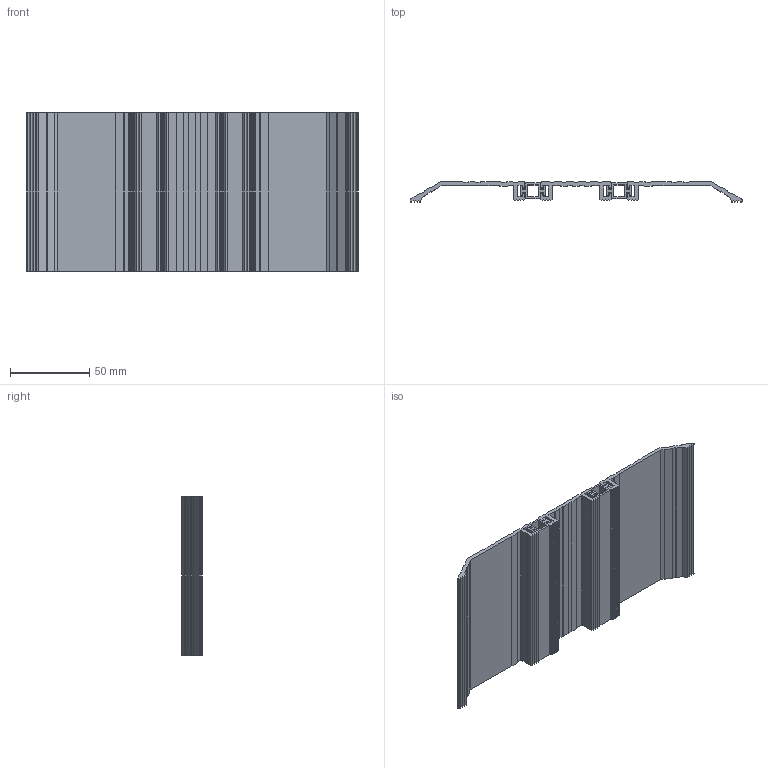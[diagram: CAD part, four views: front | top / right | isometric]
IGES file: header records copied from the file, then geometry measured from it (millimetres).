
Global section: file name: No Iges File Name specified; native system: Autodesk Inventor 2012; preprocessor: AutoDesk Inventor Iges Exporter R2012; author: anna.b; date: 20130718.150455; units: millimetre
Bounding box: 209.32 x 12.7 x 100 mm (x, y, z)
Volume: 73158.5 mm3; surface area: 76870.5 mm2
Topology: 5 solids, 5 shells, 330 faces, 960 edges, 640 vertices
Faces by surface type: plane 283, cylinder 27, revolution 20
